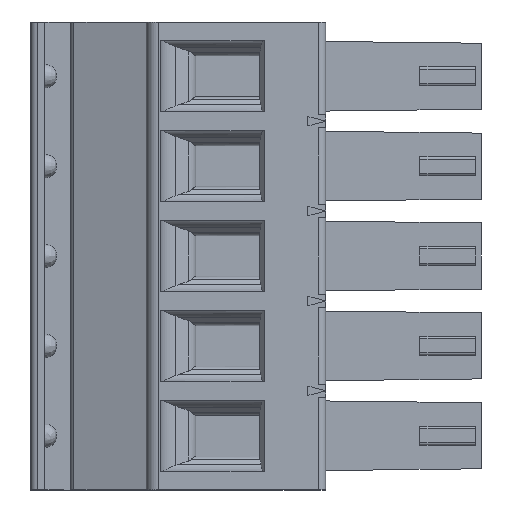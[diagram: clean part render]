
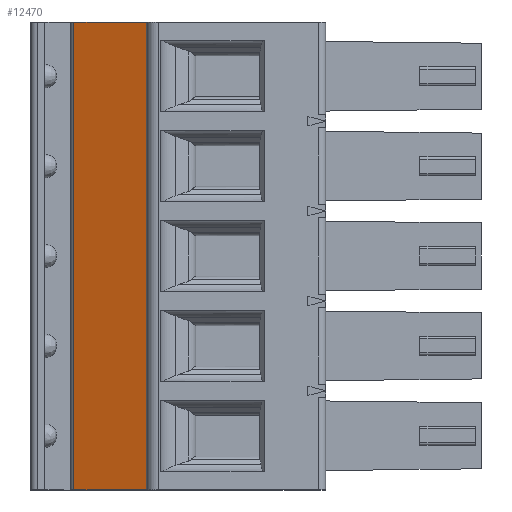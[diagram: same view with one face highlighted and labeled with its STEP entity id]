
A CAD part, left-side view. The second image highlights one B-rep face of the part: STEP entity #12470.
In plain terms, the highlighted planar face has unit normal (-0.94, 0.342, 0).
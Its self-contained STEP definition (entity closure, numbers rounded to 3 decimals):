
#666 = CARTESIAN_POINT ( 'NONE',  ( -1.68, 7.6, -28.35 ) ) ;
#785 = LINE ( 'NONE', #6300, #11689 ) ;
#1252 = EDGE_CURVE ( 'NONE', #10281, #4160, #785, .T. ) ;
#2358 = FACE_OUTER_BOUND ( 'NONE', #4397, .T. ) ;
#2795 = CARTESIAN_POINT ( 'NONE',  ( -0.563, 10.668, -8.51 ) ) ;
#2797 = CARTESIAN_POINT ( 'NONE',  ( -1.68, 7.6, -25.74 ) ) ;
#3073 = CARTESIAN_POINT ( 'NONE',  ( -1.68, 7.6, -8.51 ) ) ;
#3369 = VERTEX_POINT ( 'NONE', #4828 ) ;
#3545 = AXIS2_PLACEMENT_3D ( 'NONE', #2797, #10226, #3887 ) ;
#3670 = LINE ( 'NONE', #3073, #9311 ) ;
#3681 = ORIENTED_EDGE ( 'NONE', *, *, #1252, .T. ) ;
#3887 = DIRECTION ( 'NONE',  ( 0.342, 0.94, 0. ) ) ;
#3928 = VERTEX_POINT ( 'NONE', #666 ) ;
#3942 = DIRECTION ( 'NONE',  ( 0.342, 0.94, 0. ) ) ;
#4160 = VERTEX_POINT ( 'NONE', #10671 ) ;
#4397 = EDGE_LOOP ( 'NONE', ( #12593, #9457, #3681, #7290 ) ) ;
#4412 = LINE ( 'NONE', #6266, #12486 ) ;
#4828 = CARTESIAN_POINT ( 'NONE',  ( -1.68, 7.6, -8.51 ) ) ;
#5129 = EDGE_CURVE ( 'NONE', #3928, #3369, #4412, .T. ) ;
#6266 = CARTESIAN_POINT ( 'NONE',  ( -1.68, 7.6, -25.74 ) ) ;
#6300 = CARTESIAN_POINT ( 'NONE',  ( -0.563, 10.668, -25.74 ) ) ;
#6737 = EDGE_CURVE ( 'NONE', #3369, #10281, #3670, .T. ) ;
#7290 = ORIENTED_EDGE ( 'NONE', *, *, #9754, .F. ) ;
#7709 = LINE ( 'NONE', #8154, #10541 ) ;
#8057 = PLANE ( 'NONE',  #3545 ) ;
#8154 = CARTESIAN_POINT ( 'NONE',  ( -1.68, 7.6, -28.35 ) ) ;
#9311 = VECTOR ( 'NONE', #10499, 1000. ) ;
#9457 = ORIENTED_EDGE ( 'NONE', *, *, #6737, .T. ) ;
#9512 = DIRECTION ( 'NONE',  ( 0., 0., 1. ) ) ;
#9754 = EDGE_CURVE ( 'NONE', #3928, #4160, #7709, .T. ) ;
#10226 = DIRECTION ( 'NONE',  ( -0.94, 0.342, 0. ) ) ;
#10281 = VERTEX_POINT ( 'NONE', #2795 ) ;
#10499 = DIRECTION ( 'NONE',  ( 0.342, 0.94, 0. ) ) ;
#10541 = VECTOR ( 'NONE', #3942, 1000. ) ;
#10671 = CARTESIAN_POINT ( 'NONE',  ( -0.563, 10.668, -28.35 ) ) ;
#11689 = VECTOR ( 'NONE', #12695, 1000. ) ;
#12470 = ADVANCED_FACE ( 'NONE', ( #2358 ), #8057, .T. ) ;
#12486 = VECTOR ( 'NONE', #9512, 1000. ) ;
#12593 = ORIENTED_EDGE ( 'NONE', *, *, #5129, .T. ) ;
#12695 = DIRECTION ( 'NONE',  ( 0., 0., -1. ) ) ;
